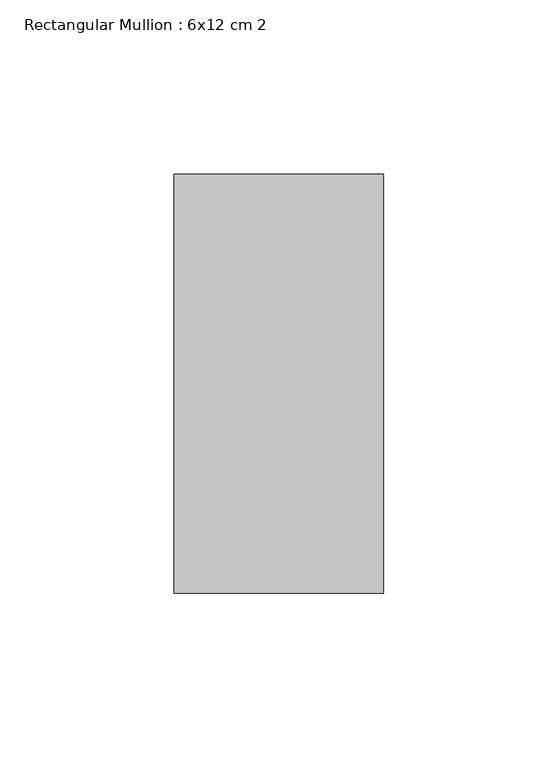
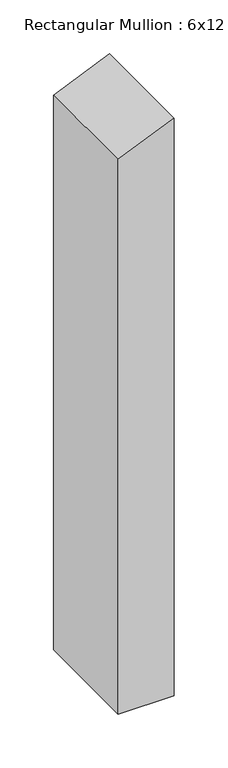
"""IFC4 building model written with IfcOpenShell, lengths in millimetres: member geometry, Rectangular Mullion : 6x12 cm 2."""

from ifc_helpers import new_model, si_unit, frame, origin, place, context, project, spatial, polyline, outline, extrude, source, transform, mapped, element, save


def rectangular_mullion_6x12_cm_2_ac0022b3(model_context):
    return source(origin(), model_context, "Body", "SweptSolid", [
        extrude(outline(polyline([(41.3234611, 0.0), (15.5141475, -60.0), (-613.1459019, -60.0), (-613.1459019, 0.0), (41.3234611, 0.0)])), frame((0.0, 85.0, 0.0), z_axis=(0.0, 1.0, 0.0), x_axis=(0.0, 0.0, 1.0)), (0.0, 0.0, 1.0), 120.0),
    ])


if __name__ == "__main__":
    model = new_model("IFC4")
    model_context = context("Model", 3, world=origin())
    ifc_project = project(units=[si_unit("LENGTHUNIT", "METRE", prefix="MILLI")], contexts=[model_context])
    site = spatial("IfcSite", under=ifc_project)
    building = spatial("IfcBuilding", under=site)
    placement = place(None, origin())
    rectangular_mullion_6x12_cm_2_shape = rectangular_mullion_6x12_cm_2_ac0022b3(model_context)
    element("IfcMember", 1, ObjectType="Rectangular Mullion : 6x12 cm 2", at=placement, inside=building, context=model_context, shape_type="MappedRepresentation", body=[
        mapped(rectangular_mullion_6x12_cm_2_shape, transform((0.0, 0.0, 0.0), x_axis=(1.0, 0.0, 0.0), y_axis=(0.0, 1.0, 0.0), z_axis=(0.0, 0.0, 1.0))),
    ])
    save(model, "model.ifc")
